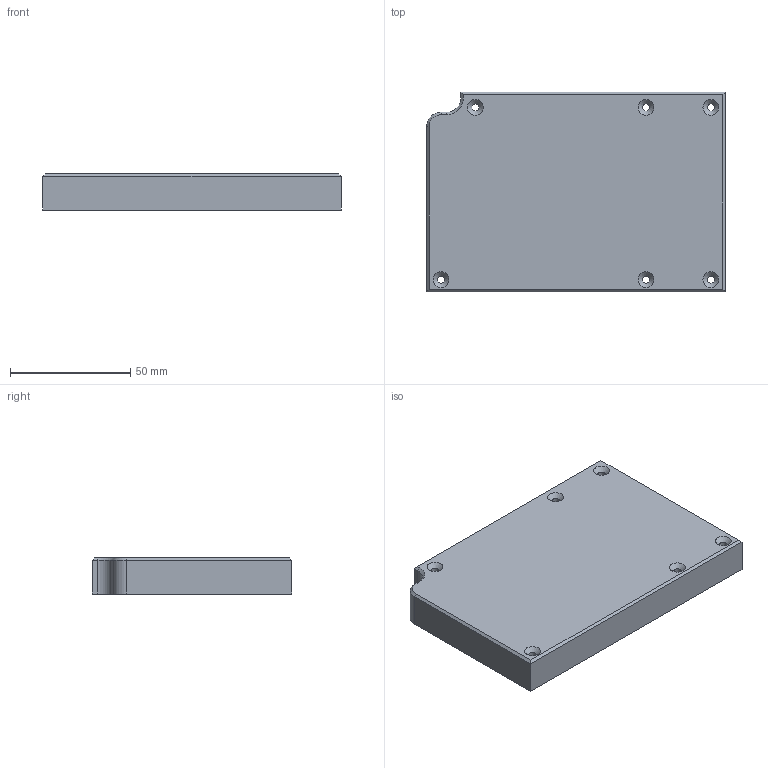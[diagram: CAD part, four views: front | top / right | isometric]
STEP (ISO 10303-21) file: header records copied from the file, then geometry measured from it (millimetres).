
FILE_DESCRIPTION( ( '' ), ' ' );
FILE_NAME( '/vol/tmp/translate-15226057431577123025/5e99afc737e6fe15d4c4a232.step', '2020-04-17T13:31:52', ( '' ), ( '' ), ' ', ' ', ' ' );
FILE_SCHEMA( ( 'AUTOMOTIVE_DESIGN { 1 0 10303 214 1 1 1 1 }' ) );
Length unit declared in the file: metre
Products named in the file (1): Part 5
Bounding box: 124.25 x 83 x 15 mm (x, y, z)
Volume: 62792.1 mm3; surface area: 31567.6 mm2
Topology: 1 solids, 1 shells, 35 faces, 82 edges, 50 vertices
Faces by surface type: plane 19, cylinder 8, cone 8
Full cylindrical faces by diameter (mm): 3.1 x6
Entity records: 1248 total; most frequent: DIRECTION 166, CARTESIAN_POINT 156, ORIENTED_EDGE 140, EDGE_CURVE 70, AXIS2_PLACEMENT_3D 60, EDGE_LOOP 60, VERTEX_POINT 50, LINE 46
